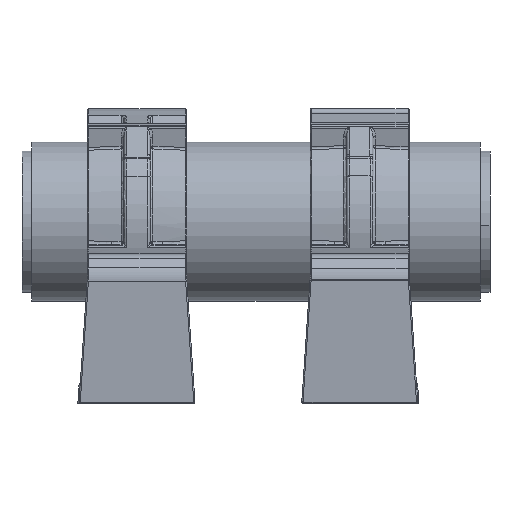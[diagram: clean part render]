
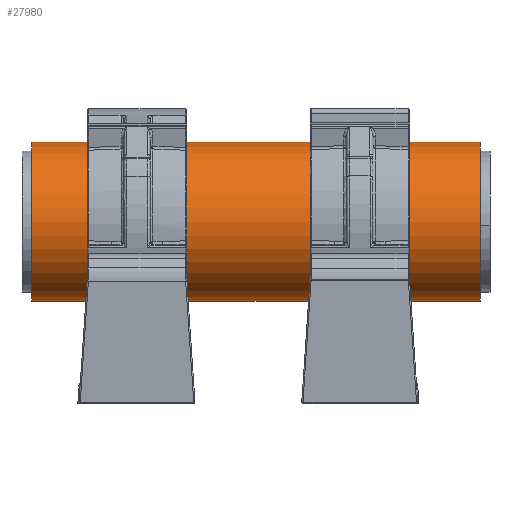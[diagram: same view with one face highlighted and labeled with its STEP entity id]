
A CAD part, left-side view. The second image highlights one B-rep face of the part: STEP entity #27980.
In plain terms, the highlighted cylindrical face has radius 50.8 mm (diameter 101.6 mm), a partial arc.
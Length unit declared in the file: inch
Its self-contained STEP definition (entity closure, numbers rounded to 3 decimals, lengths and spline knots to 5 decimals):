
#675 = VERTEX_POINT ( 'NONE', #6666 ) ;
#697 = ORIENTED_EDGE ( 'NONE', *, *, #22816, .F. ) ;
#861 = CARTESIAN_POINT ( 'NONE',  ( 0., 11.25, 0. ) ) ;
#2039 = VECTOR ( 'NONE', #2282, 39.37008 ) ;
#2282 = DIRECTION ( 'NONE',  ( 0., -1., 0. ) ) ;
#2906 = ORIENTED_EDGE ( 'NONE', *, *, #23713, .T. ) ;
#3238 = EDGE_CURVE ( 'NONE', #12581, #10781, #5192, .T. ) ;
#4407 = VECTOR ( 'NONE', #5491, 39.37008 ) ;
#5192 = CIRCLE ( 'NONE', #5214, 2. ) ;
#5214 = AXIS2_PLACEMENT_3D ( 'NONE', #18451, #27388, #7260 ) ;
#5491 = DIRECTION ( 'NONE',  ( 0., -1., 0. ) ) ;
#6666 = CARTESIAN_POINT ( 'NONE',  ( 0., 11.25, -2. ) ) ;
#6683 = CARTESIAN_POINT ( 'NONE',  ( 0., 0., 2. ) ) ;
#7260 = DIRECTION ( 'NONE',  ( 0., 0., 1. ) ) ;
#8681 = DIRECTION ( 'NONE',  ( 0., 1., 0. ) ) ;
#9830 = DIRECTION ( 'NONE',  ( 0., -1., 0. ) ) ;
#10050 = ORIENTED_EDGE ( 'NONE', *, *, #12408, .F. ) ;
#10709 = ORIENTED_EDGE ( 'NONE', *, *, #3238, .T. ) ;
#10781 = VERTEX_POINT ( 'NONE', #6683 ) ;
#12036 = FACE_OUTER_BOUND ( 'NONE', #18959, .T. ) ;
#12408 = EDGE_CURVE ( 'NONE', #675, #16015, #20306, .T. ) ;
#12581 = VERTEX_POINT ( 'NONE', #14271 ) ;
#13478 = LINE ( 'NONE', #22458, #2039 ) ;
#14271 = CARTESIAN_POINT ( 'NONE',  ( 0., 0., -2. ) ) ;
#14951 = CARTESIAN_POINT ( 'NONE',  ( 0., 11.25, 2. ) ) ;
#16015 = VERTEX_POINT ( 'NONE', #14951 ) ;
#16706 = LINE ( 'NONE', #25649, #4407 ) ;
#17671 = DIRECTION ( 'NONE',  ( 0., 0., 1. ) ) ;
#18451 = CARTESIAN_POINT ( 'NONE',  ( 0., 0., 0. ) ) ;
#18757 = AXIS2_PLACEMENT_3D ( 'NONE', #861, #9830, #18801 ) ;
#18801 = DIRECTION ( 'NONE',  ( 0., 0., -1. ) ) ;
#18959 = EDGE_LOOP ( 'NONE', ( #697, #10050, #2906, #10709 ) ) ;
#19409 = AXIS2_PLACEMENT_3D ( 'NONE', #28795, #8681, #17671 ) ;
#20306 = CIRCLE ( 'NONE', #19409, 2. ) ;
#21008 = CYLINDRICAL_SURFACE ( 'NONE', #18757, 2. ) ;
#22458 = CARTESIAN_POINT ( 'NONE',  ( 0., 11.25, -2. ) ) ;
#22816 = EDGE_CURVE ( 'NONE', #16015, #10781, #16706, .T. ) ;
#23713 = EDGE_CURVE ( 'NONE', #675, #12581, #13478, .T. ) ;
#25649 = CARTESIAN_POINT ( 'NONE',  ( 0., 11.25, 2. ) ) ;
#27388 = DIRECTION ( 'NONE',  ( 0., 1., 0. ) ) ;
#27980 = ADVANCED_FACE ( 'NONE', ( #12036 ), #21008, .T. ) ;
#28795 = CARTESIAN_POINT ( 'NONE',  ( 0., 11.25, 0. ) ) ;
